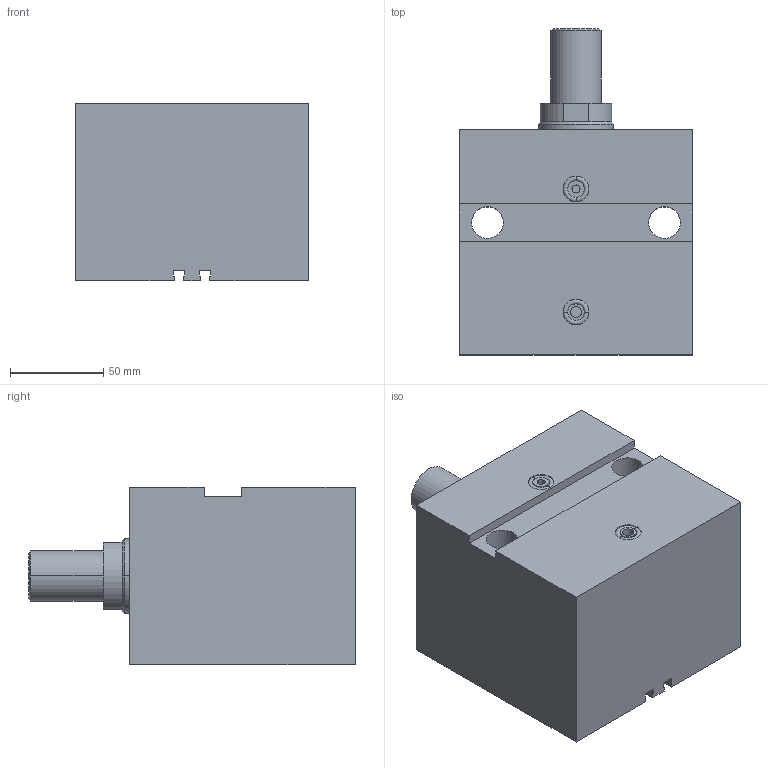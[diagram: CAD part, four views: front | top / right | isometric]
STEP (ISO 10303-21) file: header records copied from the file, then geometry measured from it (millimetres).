
FILE_DESCRIPTION (( 'STEP AP203' ), '1' );
FILE_NAME ('GERMA_Blockzylinder_704-063-030-A.STEP', '2016-07-26T09:45:03', ( '' ), ( '' ), 'SwSTEP 2.0', 'SolidWorks 2015', '' );
FILE_SCHEMA (( 'CONFIG_CONTROL_DESIGN' ));
Length unit declared in the file: millimetre
Products named in the file (3): Kolben_MT 70x-063_Kolben_MT DU.63-Hub30-AG; GERMA_Blockzylinder_704-063-030-A; GH-700-063_GH-704-063-030
Assembly tree (2 placements, depth 2):
  GERMA_Blockzylinder_704-063-030-A
    GH-700-063_GH-704-063-030
    Kolben_MT 70x-063_Kolben_MT DU.63-Hub30-AG
Bounding box: 125 x 175 x 95 mm (x, y, z)
Volume: 1357416.7 mm3; surface area: 139038 mm2
Topology: 2 solids, 2 shells, 96 faces, 220 edges, 137 vertices
Faces by surface type: plane 43, cylinder 37, cone 12, torus 4
Entity records: 2994 total; most frequent: DIRECTION 507, CARTESIAN_POINT 454, ORIENTED_EDGE 432, EDGE_CURVE 216, AXIS2_PLACEMENT_3D 190, VERTEX_POINT 137, VECTOR 127, LINE 127
